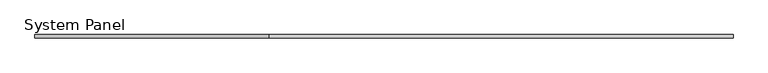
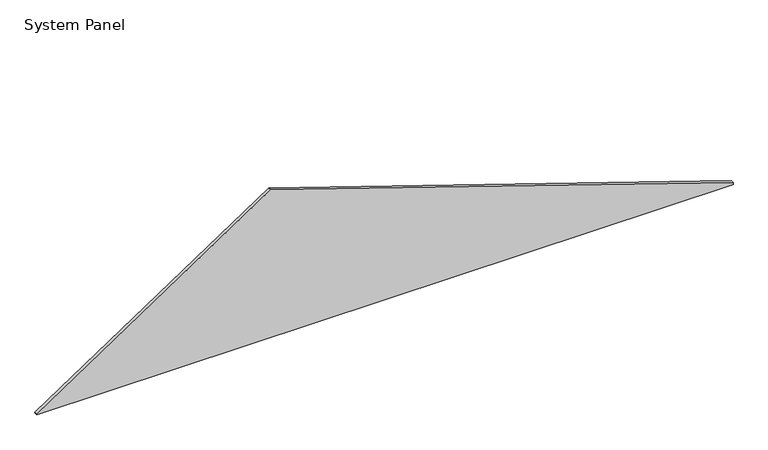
"""IFC4 building model written with IfcOpenShell, lengths in millimetres: plate geometry."""

from ifc_helpers import new_model, si_unit, frame, origin, place, context, project, spatial, polyline, outline, extrude, source, transform, mapped, element, save


def system_panel_3076caaa(model_context):
    return source(origin(), model_context, "Body", "SweptSolid", [
        extrude(outline(polyline([(0.0, -3950.3303618), (0.0, 3950.3303618), (24.172699, 3950.3303618), (1773.0685323, -1296.3571382), (3.7530499, -3950.3303618), (0.0, -3950.3303618)])), frame((0.0, -19.05, 0.0), z_axis=(0.0, 1.0, 0.0), x_axis=(0.0, 0.0, 1.0)), (0.0, 0.0, 1.0), 38.1),
    ])


if __name__ == "__main__":
    model = new_model("IFC4")
    model_context = context("Model", 3, world=origin())
    ifc_project = project(units=[si_unit("LENGTHUNIT", "METRE", prefix="MILLI")], contexts=[model_context])
    site = spatial("IfcSite", under=ifc_project)
    building = spatial("IfcBuilding", under=site)
    placement = place(None, origin())
    system_panel_shape = system_panel_3076caaa(model_context)
    element("IfcPlate", 1, ObjectType="System Panel : 1/2\" Plywood & 1\" Rigid Ins.", at=placement, inside=building, context=model_context, shape_type="MappedRepresentation", body=[
        mapped(system_panel_shape, transform((0.0, 0.0, 0.0), x_axis=(1.0, 0.0, 0.0), y_axis=(0.0, 1.0, 0.0), z_axis=(0.0, 0.0, 1.0))),
    ])
    save(model, "model.ifc")
